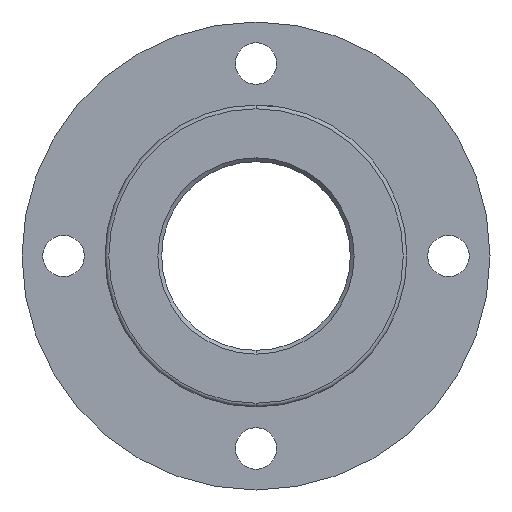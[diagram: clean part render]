
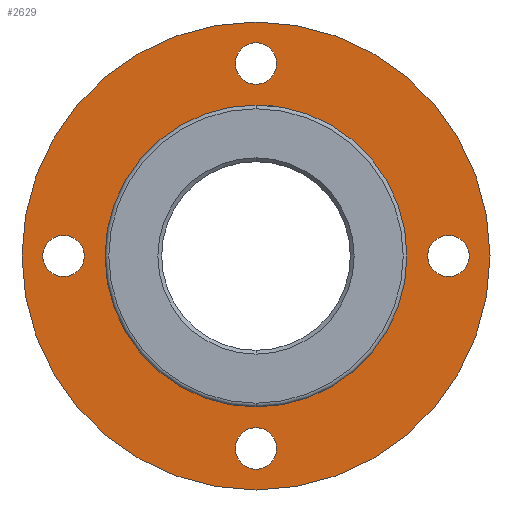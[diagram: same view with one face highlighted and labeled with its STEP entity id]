
A CAD part, front view. The second image highlights one B-rep face of the part: STEP entity #2629.
In plain terms, the highlighted planar face has unit normal (0, -1, 0).
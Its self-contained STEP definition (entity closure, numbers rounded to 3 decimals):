
#8 = AXIS2_PLACEMENT_3D ( 'NONE', #5436, #4328, #3825 ) ;
#64 = EDGE_CURVE ( 'NONE', #6248, #1057, #4918, .T. ) ;
#86 = CIRCLE ( 'NONE', #1527, 2.75 ) ;
#115 = AXIS2_PLACEMENT_3D ( 'NONE', #4723, #6393, #2441 ) ;
#141 = CARTESIAN_POINT ( 'NONE',  ( 0., 0., -20. ) ) ;
#221 = DIRECTION ( 'NONE',  ( 0., 1., 0. ) ) ;
#307 = CARTESIAN_POINT ( 'NONE',  ( 25.5, 0., 0. ) ) ;
#311 = CARTESIAN_POINT ( 'NONE',  ( 0., 0., -28.25 ) ) ;
#312 = CARTESIAN_POINT ( 'NONE',  ( 0., 0., -25.5 ) ) ;
#480 = DIRECTION ( 'NONE',  ( 0., 0., 1. ) ) ;
#562 = CARTESIAN_POINT ( 'NONE',  ( -25.5, 0., 2.75 ) ) ;
#670 = AXIS2_PLACEMENT_3D ( 'NONE', #3585, #221, #802 ) ;
#737 = AXIS2_PLACEMENT_3D ( 'NONE', #892, #5348, #2494 ) ;
#738 = DIRECTION ( 'NONE',  ( 0., 0., 1. ) ) ;
#802 = DIRECTION ( 'NONE',  ( 0., 0., 1. ) ) ;
#818 = EDGE_CURVE ( 'NONE', #1431, #7061, #1506, .T. ) ;
#892 = CARTESIAN_POINT ( 'NONE',  ( -25.5, 0., 0. ) ) ;
#935 = DIRECTION ( 'NONE',  ( 0., 1., 0. ) ) ;
#1036 = CARTESIAN_POINT ( 'NONE',  ( 25.5, 0., 0. ) ) ;
#1057 = VERTEX_POINT ( 'NONE', #2933 ) ;
#1210 = DIRECTION ( 'NONE',  ( 0., 1., 0. ) ) ;
#1310 = CIRCLE ( 'NONE', #115, 2.75 ) ;
#1333 = CARTESIAN_POINT ( 'NONE',  ( 25.5, 0., 2.75 ) ) ;
#1339 = AXIS2_PLACEMENT_3D ( 'NONE', #6319, #3524, #738 ) ;
#1374 = VERTEX_POINT ( 'NONE', #311 ) ;
#1431 = VERTEX_POINT ( 'NONE', #3581 ) ;
#1506 = CIRCLE ( 'NONE', #4847, 2.75 ) ;
#1527 = AXIS2_PLACEMENT_3D ( 'NONE', #6281, #4045, #2295 ) ;
#1576 = CARTESIAN_POINT ( 'NONE',  ( 0., 0., 25.5 ) ) ;
#1585 = FACE_BOUND ( 'NONE', #1724, .T. ) ;
#1671 = CARTESIAN_POINT ( 'NONE',  ( 0., 0., 20. ) ) ;
#1724 = EDGE_LOOP ( 'NONE', ( #2760, #4382 ) ) ;
#1854 = CIRCLE ( 'NONE', #2439, 20. ) ;
#1885 = VERTEX_POINT ( 'NONE', #3476 ) ;
#2019 = EDGE_CURVE ( 'NONE', #7241, #1885, #5533, .T. ) ;
#2027 = CIRCLE ( 'NONE', #4284, 2.75 ) ;
#2049 = VERTEX_POINT ( 'NONE', #7266 ) ;
#2055 = EDGE_CURVE ( 'NONE', #2230, #6966, #3007, .T. ) ;
#2067 = EDGE_CURVE ( 'NONE', #3864, #2049, #2027, .T. ) ;
#2166 = CARTESIAN_POINT ( 'NONE',  ( 0., 0., 0. ) ) ;
#2230 = VERTEX_POINT ( 'NONE', #1671 ) ;
#2233 = EDGE_LOOP ( 'NONE', ( #4206, #4912 ) ) ;
#2246 = PLANE ( 'NONE',  #6415 ) ;
#2295 = DIRECTION ( 'NONE',  ( 0., 0., 1. ) ) ;
#2309 = EDGE_CURVE ( 'NONE', #1374, #3174, #86, .T. ) ;
#2439 = AXIS2_PLACEMENT_3D ( 'NONE', #3163, #935, #4837 ) ;
#2441 = DIRECTION ( 'NONE',  ( 0., 0., 1. ) ) ;
#2457 = EDGE_CURVE ( 'NONE', #6966, #2230, #1854, .T. ) ;
#2494 = DIRECTION ( 'NONE',  ( 0., 0., 1. ) ) ;
#2562 = FACE_BOUND ( 'NONE', #3904, .T. ) ;
#2585 = CARTESIAN_POINT ( 'NONE',  ( 0., 0., -22.75 ) ) ;
#2629 = ADVANCED_FACE ( 'NONE', ( #1585, #5360, #6409, #4202, #2562, #5874 ), #2246, .F. ) ;
#2710 = DIRECTION ( 'NONE',  ( 0., 1., 0. ) ) ;
#2760 = ORIENTED_EDGE ( 'NONE', *, *, #2055, .T. ) ;
#2933 = CARTESIAN_POINT ( 'NONE',  ( -25.5, 0., -2.75 ) ) ;
#3007 = CIRCLE ( 'NONE', #4904, 20. ) ;
#3009 = AXIS2_PLACEMENT_3D ( 'NONE', #312, #4231, #3696 ) ;
#3028 = CARTESIAN_POINT ( 'NONE',  ( 0., 0., 28.25 ) ) ;
#3145 = DIRECTION ( 'NONE',  ( 0., 0., 1. ) ) ;
#3163 = CARTESIAN_POINT ( 'NONE',  ( 0., 0., 0. ) ) ;
#3174 = VERTEX_POINT ( 'NONE', #2585 ) ;
#3278 = ORIENTED_EDGE ( 'NONE', *, *, #818, .T. ) ;
#3365 = DIRECTION ( 'NONE',  ( 0., 0., 1. ) ) ;
#3411 = CARTESIAN_POINT ( 'NONE',  ( 0., 0., 0. ) ) ;
#3457 = EDGE_LOOP ( 'NONE', ( #3606, #3278 ) ) ;
#3476 = CARTESIAN_POINT ( 'NONE',  ( 0., 0., -31. ) ) ;
#3503 = CIRCLE ( 'NONE', #3554, 2.75 ) ;
#3524 = DIRECTION ( 'NONE',  ( 0., 1., 0. ) ) ;
#3533 = EDGE_CURVE ( 'NONE', #1885, #7241, #6757, .T. ) ;
#3540 = ORIENTED_EDGE ( 'NONE', *, *, #2067, .T. ) ;
#3551 = ORIENTED_EDGE ( 'NONE', *, *, #5945, .T. ) ;
#3554 = AXIS2_PLACEMENT_3D ( 'NONE', #307, #7041, #3145 ) ;
#3581 = CARTESIAN_POINT ( 'NONE',  ( 25.5, 0., -2.75 ) ) ;
#3585 = CARTESIAN_POINT ( 'NONE',  ( -25.5, 0., 0. ) ) ;
#3606 = ORIENTED_EDGE ( 'NONE', *, *, #4923, .T. ) ;
#3696 = DIRECTION ( 'NONE',  ( 0., 0., 1. ) ) ;
#3825 = DIRECTION ( 'NONE',  ( 0., 0., 1. ) ) ;
#3828 = DIRECTION ( 'NONE',  ( 0., 0., 1. ) ) ;
#3843 = DIRECTION ( 'NONE',  ( 0., 1., 0. ) ) ;
#3864 = VERTEX_POINT ( 'NONE', #3028 ) ;
#3879 = ORIENTED_EDGE ( 'NONE', *, *, #2019, .F. ) ;
#3904 = EDGE_LOOP ( 'NONE', ( #6029, #3551 ) ) ;
#4045 = DIRECTION ( 'NONE',  ( 0., 1., 0. ) ) ;
#4202 = FACE_BOUND ( 'NONE', #6960, .T. ) ;
#4206 = ORIENTED_EDGE ( 'NONE', *, *, #7096, .T. ) ;
#4231 = DIRECTION ( 'NONE',  ( 0., 1., 0. ) ) ;
#4284 = AXIS2_PLACEMENT_3D ( 'NONE', #1576, #2710, #5490 ) ;
#4328 = DIRECTION ( 'NONE',  ( 0., 1., 0. ) ) ;
#4382 = ORIENTED_EDGE ( 'NONE', *, *, #2457, .T. ) ;
#4576 = CARTESIAN_POINT ( 'NONE',  ( 0., 0., 31. ) ) ;
#4635 = CIRCLE ( 'NONE', #737, 2.75 ) ;
#4677 = ORIENTED_EDGE ( 'NONE', *, *, #6337, .T. ) ;
#4723 = CARTESIAN_POINT ( 'NONE',  ( 0., 0., 25.5 ) ) ;
#4837 = DIRECTION ( 'NONE',  ( 0., 0., 1. ) ) ;
#4847 = AXIS2_PLACEMENT_3D ( 'NONE', #1036, #3843, #480 ) ;
#4904 = AXIS2_PLACEMENT_3D ( 'NONE', #2166, #4954, #3828 ) ;
#4912 = ORIENTED_EDGE ( 'NONE', *, *, #2309, .T. ) ;
#4918 = CIRCLE ( 'NONE', #670, 2.75 ) ;
#4923 = EDGE_CURVE ( 'NONE', #7061, #1431, #3503, .T. ) ;
#4954 = DIRECTION ( 'NONE',  ( 0., 1., 0. ) ) ;
#5016 = EDGE_LOOP ( 'NONE', ( #5036, #3879 ) ) ;
#5036 = ORIENTED_EDGE ( 'NONE', *, *, #3533, .F. ) ;
#5348 = DIRECTION ( 'NONE',  ( 0., 1., 0. ) ) ;
#5360 = FACE_BOUND ( 'NONE', #2233, .T. ) ;
#5436 = CARTESIAN_POINT ( 'NONE',  ( 0., 0., 0. ) ) ;
#5490 = DIRECTION ( 'NONE',  ( 0., 0., 1. ) ) ;
#5533 = CIRCLE ( 'NONE', #1339, 31. ) ;
#5874 = FACE_OUTER_BOUND ( 'NONE', #5016, .T. ) ;
#5945 = EDGE_CURVE ( 'NONE', #1057, #6248, #4635, .T. ) ;
#6029 = ORIENTED_EDGE ( 'NONE', *, *, #64, .T. ) ;
#6248 = VERTEX_POINT ( 'NONE', #562 ) ;
#6281 = CARTESIAN_POINT ( 'NONE',  ( 0., 0., -25.5 ) ) ;
#6319 = CARTESIAN_POINT ( 'NONE',  ( 0., 0., 0. ) ) ;
#6337 = EDGE_CURVE ( 'NONE', #2049, #3864, #1310, .T. ) ;
#6393 = DIRECTION ( 'NONE',  ( 0., 1., 0. ) ) ;
#6409 = FACE_BOUND ( 'NONE', #3457, .T. ) ;
#6415 = AXIS2_PLACEMENT_3D ( 'NONE', #3411, #1210, #3365 ) ;
#6560 = CIRCLE ( 'NONE', #3009, 2.75 ) ;
#6757 = CIRCLE ( 'NONE', #8, 31. ) ;
#6960 = EDGE_LOOP ( 'NONE', ( #3540, #4677 ) ) ;
#6966 = VERTEX_POINT ( 'NONE', #141 ) ;
#7041 = DIRECTION ( 'NONE',  ( 0., 1., 0. ) ) ;
#7061 = VERTEX_POINT ( 'NONE', #1333 ) ;
#7096 = EDGE_CURVE ( 'NONE', #3174, #1374, #6560, .T. ) ;
#7241 = VERTEX_POINT ( 'NONE', #4576 ) ;
#7266 = CARTESIAN_POINT ( 'NONE',  ( 0., 0., 22.75 ) ) ;
